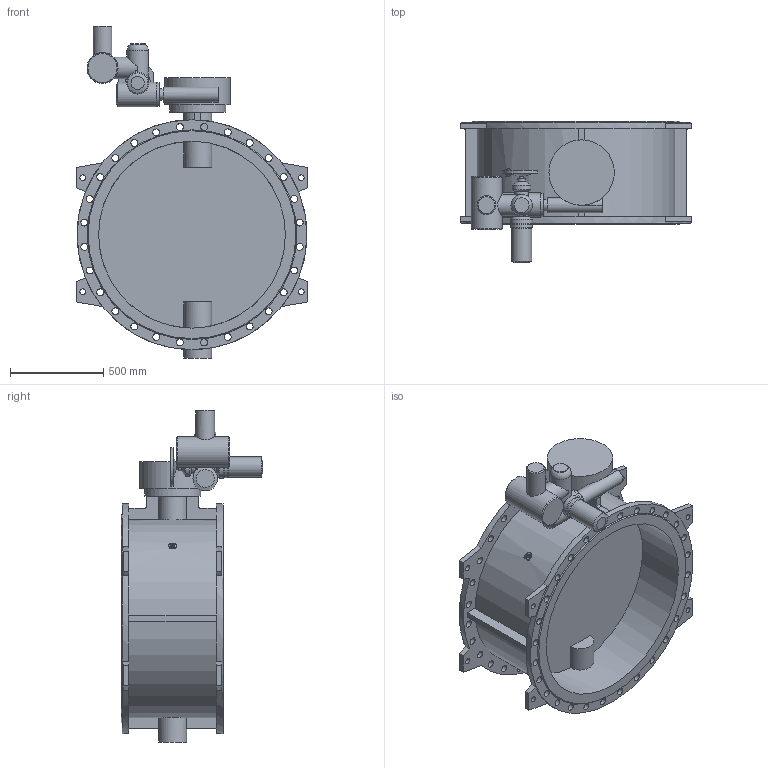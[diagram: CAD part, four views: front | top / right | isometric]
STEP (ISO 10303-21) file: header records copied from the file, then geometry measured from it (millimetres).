
FILE_DESCRIPTION(('STEP AP203'), '1');
FILE_NAME('Çàòâîð 023F.Z DN1000 PN10 + ðåäóêòîð + ÌÒ903.À10 ñ ÁÓ', '', ('UNSPECIFIED'), ('UNSPECIFIED'), 'ASCON STEP Converter 1.6', 'ASCON Math Kernel', '');
FILE_SCHEMA(('CONFIG_CONTROL_DESIGN'));
Length unit declared in the file: millimetre
Bounding box: 1240 x 758 x 1777 mm (x, y, z)
Volume: 183252125.9 mm3; surface area: 8019449.7 mm2
Topology: 1 solids, 1 shells, 266 faces, 643 edges, 422 vertices
Faces by surface type: cylinder 133, plane 119, cone 13, torus 1
Full cylindrical faces by diameter (mm): 8.5 x4, 12 x4, 14 x8, 18 x8, 24 x1, 30 x8, 37 x56, 42 x1, 60 x1, 66 x1, 72 x1, 80 x2, 100 x2, 108 x1, 114 x1, 115 x1, 116 x1, 119 x1, 125 x1, 132 x1, 150 x1, 166 x1, 300 x1, 350 x1, 1000 x2, 1230 x2
Entity records: 12045 total; most frequent: CARTESIAN_POINT 3718, DIRECTION 1292, ORIENTED_EDGE 1026, EDGE_LOOP 566, AXIS2_PLACEMENT_3D 549, EDGE_CURVE 513, VERTEX_POINT 421, FACE_BOUND 324
